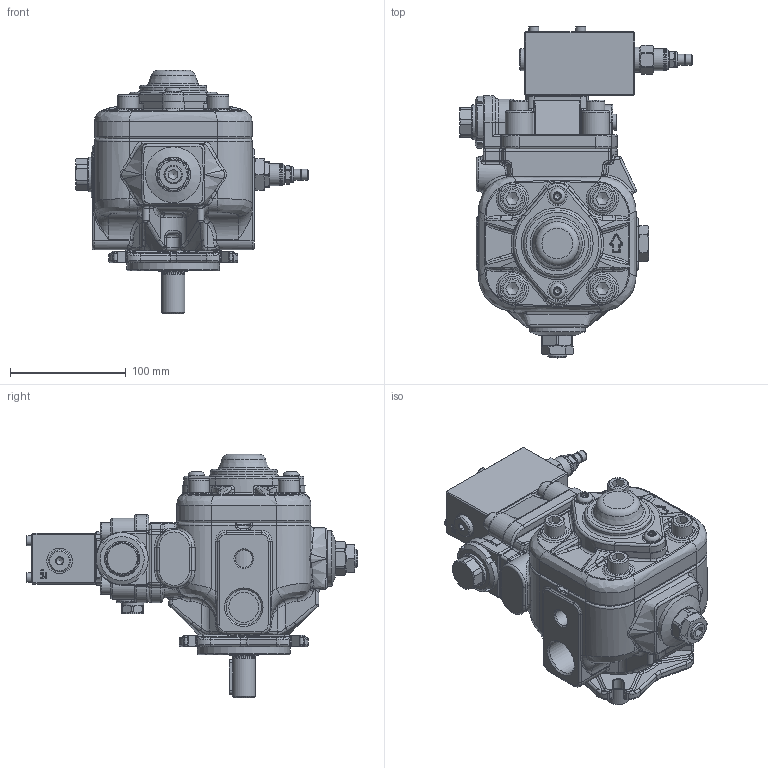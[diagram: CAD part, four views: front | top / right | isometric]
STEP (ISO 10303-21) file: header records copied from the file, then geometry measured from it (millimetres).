
FILE_DESCRIPTION(/* description */ (''),/* implementation_level */ '2;1');
FILE_NAME(/* name */ 'W:\Tecnico\Archivio\Berarma\Dimensioni Pompe\3D Export\Montaggio 3D semplificato\PLP-PHP 05\PHP05 FHRMA PCS003.stp',/* time_stamp */ '2018-10-10T15:09:38+02:00',/* author */ ('marcop'),/* organization */ (''),/* preprocessor_version */ 'ST-DEVELOPER v17',/* originating_system */ 'Autodesk Inventor 2018',/* authorisation */ '');
FILE_SCHEMA (('AUTOMOTIVE_DESIGN { 1 0 10303 214 3 1 1 }'));
Products named in the file (1): PHP05_Shrinkwrap_1
Bounding box: 200.95 x 286.6 x 210 mm (x, y, z)
Volume: 2315332.3 mm3; surface area: 262205.4 mm2
Topology: 2 solids, 2 shells, 2290 faces, 5812 edges, 3573 vertices
Faces by surface type: plane 802, cylinder 470, bspline 445, torus 290, cone 247, sphere 36
Full cylindrical faces by diameter (mm): 0.9 x3, 1.7 x4, 2.5 x2, 4 x1, 4.134 x2, 5.5 x2, 6 x3, 6.5 x4, 7.2 x1, 7.671 x2, 8.5 x6, 8.566 x2, 9 x4, 9.347 x2, 9.5 x1, 11.445 x1, 12 x4, 13 x1, 13.487 x1, 13.5 x1, 13.767 x2, 14 x5, 14.224 x1, 14.5 x1, 14.63 x1, 14.95 x1, 15 x1, 15.5 x1, 16 x7, 16.376 x1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
Entity records: 85561 total; most frequent: CARTESIAN_POINT 30873, ORIENTED_EDGE 11456, DIRECTION 10484, EDGE_CURVE 5728, AXIS2_PLACEMENT_3D 4221, VERTEX_POINT 3573, EDGE_LOOP 2431, CIRCLE 2327
